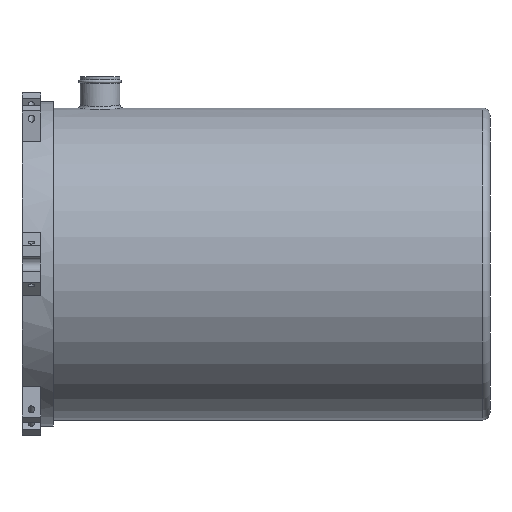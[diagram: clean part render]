
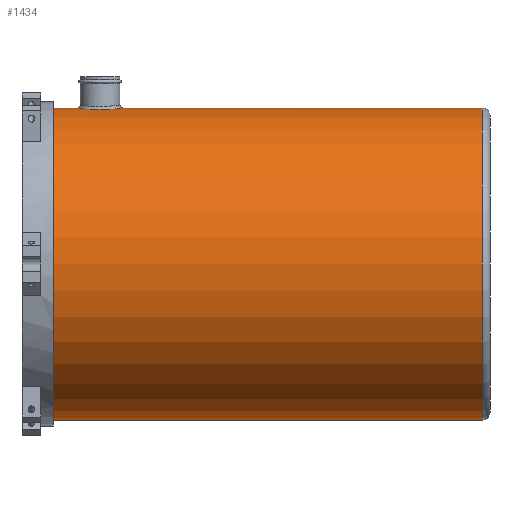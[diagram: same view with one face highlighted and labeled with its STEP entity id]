
A CAD part, front view. The second image highlights one B-rep face of the part: STEP entity #1434.
In plain terms, the highlighted cylindrical face has radius 100 mm (diameter 200 mm), a full revolution.
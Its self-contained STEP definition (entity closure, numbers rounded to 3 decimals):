
#19=B_SPLINE_CURVE_WITH_KNOTS('',3,(#2475,#2476,#2477,#2478,#2479,#2480,
#2481,#2482,#2483,#2484,#2485,#2486,#2487,#2488,#2489,#2490,#2491),
 .UNSPECIFIED.,.T.,.F.,(4,1,1,1,1,1,1,1,1,1,1,1,1,1,4),(-13.411,
-12.863,-12.316,-11.768,-11.221,
-10.674,-10.126,-9.396,-9.032,
-8.667,-7.937,-7.389,-6.842,
-6.295,-5.747),.UNSPECIFIED.);
#366=FACE_BOUND('',#568,.T.);
#367=FACE_BOUND('',#569,.T.);
#445=FACE_OUTER_BOUND('',#567,.T.);
#567=EDGE_LOOP('',(#1271));
#568=EDGE_LOOP('',(#1272));
#569=EDGE_LOOP('',(#1273));
#631=CIRCLE('',#1573,100.);
#634=CIRCLE('',#1578,100.);
#767=VERTEX_POINT('',#2368);
#768=VERTEX_POINT('',#2455);
#771=VERTEX_POINT('',#2496);
#953=EDGE_CURVE('',#767,#767,#631,.T.);
#956=EDGE_CURVE('',#768,#768,#19,.T.);
#958=EDGE_CURVE('',#771,#771,#634,.T.);
#1271=ORIENTED_EDGE('',*,*,#953,.T.);
#1272=ORIENTED_EDGE('',*,*,#958,.T.);
#1273=ORIENTED_EDGE('',*,*,#956,.F.);
#1362=CYLINDRICAL_SURFACE('',#1577,100.);
#1434=ADVANCED_FACE('',(#445,#366,#367),#1362,.T.);
#1573=AXIS2_PLACEMENT_3D('',#2369,#1957,#1958);
#1577=AXIS2_PLACEMENT_3D('',#2495,#1965,#1966);
#1578=AXIS2_PLACEMENT_3D('',#2497,#1967,#1968);
#1957=DIRECTION('center_axis',(1.,0.,0.));
#1958=DIRECTION('ref_axis',(0.,0.,1.));
#1965=DIRECTION('center_axis',(-1.,0.,0.));
#1966=DIRECTION('ref_axis',(0.,0.,1.));
#1967=DIRECTION('center_axis',(-1.,0.,0.));
#1968=DIRECTION('ref_axis',(0.,0.,1.));
#2368=CARTESIAN_POINT('',(-280.,0.,0.));
#2369=CARTESIAN_POINT('Origin',(-280.,0.,-100.));
#2455=CARTESIAN_POINT('',(-235.3,0.,0.));
#2475=CARTESIAN_POINT('Ctrl Pts',(-235.299,0.,
0.));
#2476=CARTESIAN_POINT('Ctrl Pts',(-235.299,2.158,0.));
#2477=CARTESIAN_POINT('Ctrl Pts',(-236.307,6.474,-0.149));
#2478=CARTESIAN_POINT('Ctrl Pts',(-240.519,11.65,-0.653));
#2479=CARTESIAN_POINT('Ctrl Pts',(-246.609,14.53,-1.06));
#2480=CARTESIAN_POINT('Ctrl Pts',(-253.392,14.531,-1.059));
#2481=CARTESIAN_POINT('Ctrl Pts',(-259.476,11.648,-0.655));
#2482=CARTESIAN_POINT('Ctrl Pts',(-264.169,5.901,-0.089));
#2483=CARTESIAN_POINT('Ctrl Pts',(-265.205,-0.793,0.075));
#2484=CARTESIAN_POINT('Ctrl Pts',(-263.436,-6.351,-0.177));
#2485=CARTESIAN_POINT('Ctrl Pts',(-260.111,-11.157,-0.581));
#2486=CARTESIAN_POINT('Ctrl Pts',(-254.147,-14.537,-1.063));
#2487=CARTESIAN_POINT('Ctrl Pts',(-246.609,-14.528,-1.059));
#2488=CARTESIAN_POINT('Ctrl Pts',(-240.521,-11.65,-0.653));
#2489=CARTESIAN_POINT('Ctrl Pts',(-236.307,-6.474,-0.149));
#2490=CARTESIAN_POINT('Ctrl Pts',(-235.299,-2.158,0.001));
#2491=CARTESIAN_POINT('Ctrl Pts',(-235.299,0.,
0.));
#2495=CARTESIAN_POINT('Origin',(-152.5,0.,-100.));
#2496=CARTESIAN_POINT('',(-5.,0.,0.));
#2497=CARTESIAN_POINT('Origin',(-5.,0.,-100.));
